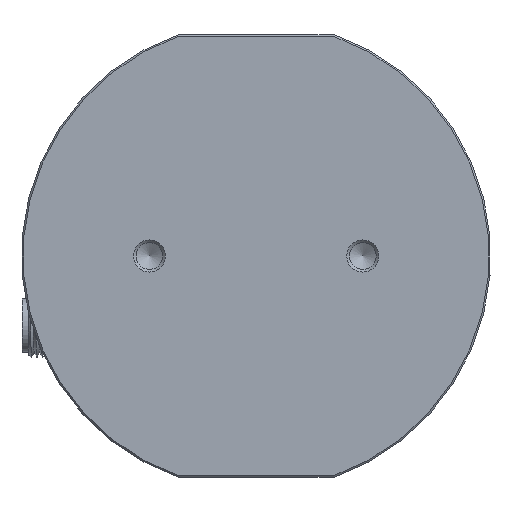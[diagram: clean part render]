
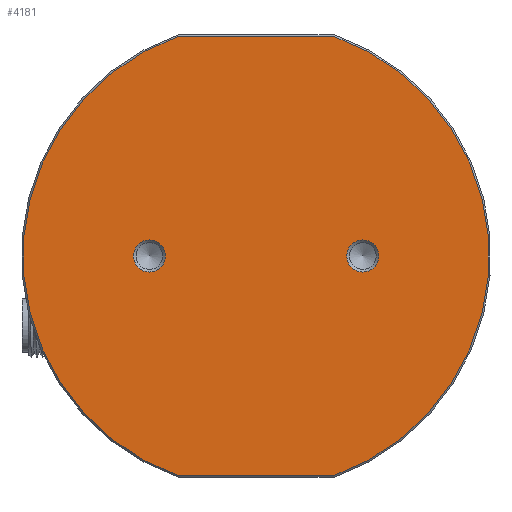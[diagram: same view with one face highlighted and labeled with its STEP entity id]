
A CAD part, left-side view. The second image highlights one B-rep face of the part: STEP entity #4181.
In plain terms, the highlighted planar face has unit normal (-1, 0, 0).
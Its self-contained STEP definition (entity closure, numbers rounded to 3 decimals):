
#1987=LINE('',#18630,#2527);
#1988=LINE('',#18634,#2528);
#2527=VECTOR('',#14738,1.);
#2528=VECTOR('',#14741,1.);
#4181=ADVANCED_FACE('',(#5180,#5181,#5182),#4852,.F.);
#4852=PLANE('',#12820);
#5180=FACE_BOUND('',#5919,.T.);
#5181=FACE_BOUND('',#5920,.T.);
#5182=FACE_BOUND('',#5921,.T.);
#5919=EDGE_LOOP('',(#7419));
#5920=EDGE_LOOP('',(#7420));
#5921=EDGE_LOOP('',(#7421,#7422,#7423,#7424));
#7419=ORIENTED_EDGE('',*,*,#10773,.T.);
#7420=ORIENTED_EDGE('',*,*,#10774,.T.);
#7421=ORIENTED_EDGE('',*,*,#10775,.T.);
#7422=ORIENTED_EDGE('',*,*,#10776,.T.);
#7423=ORIENTED_EDGE('',*,*,#10777,.T.);
#7424=ORIENTED_EDGE('',*,*,#10778,.T.);
#9699=VERTEX_POINT('',#18624);
#9700=VERTEX_POINT('',#18626);
#9701=VERTEX_POINT('',#18628);
#9702=VERTEX_POINT('',#18629);
#9703=VERTEX_POINT('',#18631);
#9704=VERTEX_POINT('',#18633);
#10773=EDGE_CURVE('',#9699,#9699,#11951,.T.);
#10774=EDGE_CURVE('',#9700,#9700,#11952,.T.);
#10775=EDGE_CURVE('',#9701,#9702,#11953,.T.);
#10776=EDGE_CURVE('',#9702,#9703,#1987,.T.);
#10777=EDGE_CURVE('',#9703,#9704,#11954,.T.);
#10778=EDGE_CURVE('',#9704,#9701,#1988,.T.);
#11951=CIRCLE('',#12816,3.);
#11952=CIRCLE('',#12817,3.);
#11953=CIRCLE('',#12818,43.7);
#11954=CIRCLE('',#12819,43.7);
#12816=AXIS2_PLACEMENT_3D('',#18623,#14732,#14733);
#12817=AXIS2_PLACEMENT_3D('',#18625,#14734,#14735);
#12818=AXIS2_PLACEMENT_3D('',#18627,#14736,#14737);
#12819=AXIS2_PLACEMENT_3D('',#18632,#14739,#14740);
#12820=AXIS2_PLACEMENT_3D('',#18635,#14742,#14743);
#14732=DIRECTION('',(1.,0.,0.));
#14733=DIRECTION('',(0.,0.,-1.));
#14734=DIRECTION('',(1.,0.,0.));
#14735=DIRECTION('',(0.,0.,-1.));
#14736=DIRECTION('',(-1.,0.,0.));
#14737=DIRECTION('',(0.,0.,-1.));
#14738=DIRECTION('',(0.,1.,0.));
#14739=DIRECTION('',(-1.,0.,0.));
#14740=DIRECTION('',(0.,0.,-1.));
#14741=DIRECTION('',(0.,-1.,0.));
#14742=DIRECTION('',(1.,0.,0.));
#14743=DIRECTION('',(0.,-1.,0.));
#18623=CARTESIAN_POINT('',(0.,64.,-41.5));
#18624=CARTESIAN_POINT('',(0.,64.,-44.5));
#18625=CARTESIAN_POINT('',(0.,24.,-41.5));
#18626=CARTESIAN_POINT('',(0.,24.,-44.5));
#18627=CARTESIAN_POINT('',(0.,44.,-41.5));
#18628=CARTESIAN_POINT('',(0.,29.431,-82.7));
#18629=CARTESIAN_POINT('',(0.,29.431,-0.3));
#18630=CARTESIAN_POINT('',(0.,44.,-0.3));
#18631=CARTESIAN_POINT('',(0.,58.569,-0.3));
#18632=CARTESIAN_POINT('',(0.,44.,-41.5));
#18633=CARTESIAN_POINT('',(0.,58.569,-82.7));
#18634=CARTESIAN_POINT('',(0.,44.,-82.7));
#18635=CARTESIAN_POINT('',(0.,44.,-41.5));
